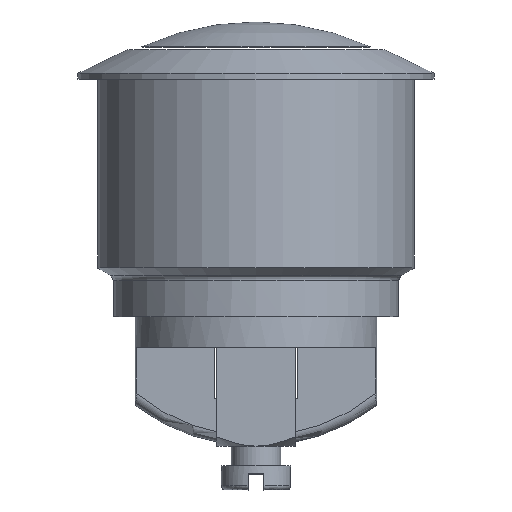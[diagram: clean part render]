
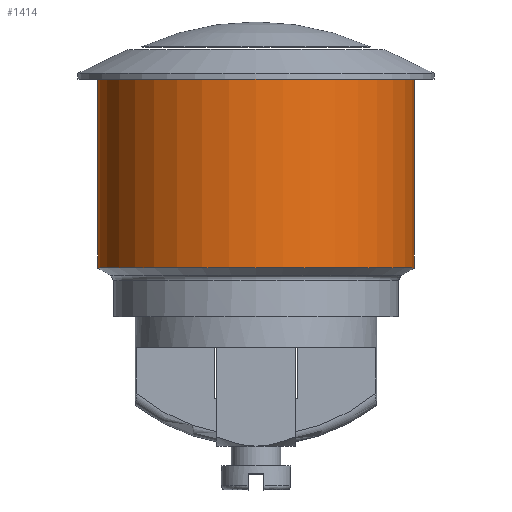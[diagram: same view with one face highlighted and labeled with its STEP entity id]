
A CAD part, top view. The second image highlights one B-rep face of the part: STEP entity #1414.
In plain terms, the highlighted cylindrical face has radius 8 mm (diameter 16 mm), a partial arc.
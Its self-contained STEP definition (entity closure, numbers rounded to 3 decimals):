
#1128=CARTESIAN_POINT('',(0.,4.012,0.));
#1129=DIRECTION('',(0.,1.,0.));
#1130=DIRECTION('',(-1.,0.,0.));
#1131=AXIS2_PLACEMENT_3D('',#1128,#1129,#1130);
#1180=DIRECTION('',(0.,-1.,0.));
#1181=VECTOR('',#1180,9.538);
#1182=CARTESIAN_POINT('',(-8.,13.55,0.));
#1183=LINE('',#1182,#1181);
#1184=DIRECTION('',(0.,-1.,0.));
#1185=VECTOR('',#1184,9.538);
#1186=CARTESIAN_POINT('',(8.,13.55,0.));
#1187=LINE('',#1186,#1185);
#1188=CARTESIAN_POINT('',(0.,13.55,0.));
#1189=DIRECTION('',(0.,1.,0.));
#1190=DIRECTION('',(-1.,0.,0.));
#1191=AXIS2_PLACEMENT_3D('',#1188,#1189,#1190);
#1255=CARTESIAN_POINT('',(-8.,4.012,0.));
#1256=VERTEX_POINT('',#1255);
#1257=CARTESIAN_POINT('',(8.,4.012,0.));
#1258=VERTEX_POINT('',#1257);
#1263=CARTESIAN_POINT('',(8.,13.55,0.));
#1264=VERTEX_POINT('',#1263);
#1265=CARTESIAN_POINT('',(-8.,13.55,0.));
#1266=VERTEX_POINT('',#1265);
#1402=CARTESIAN_POINT('',(0.,15.725,0.));
#1403=DIRECTION('',(0.,-1.,0.));
#1404=DIRECTION('',(-1.,0.,0.));
#1405=AXIS2_PLACEMENT_3D('',#1402,#1403,#1404);
#1406=CYLINDRICAL_SURFACE('',#1405,8.);
#1407=ORIENTED_EDGE('',*,*,#1392,.T.);
#1408=ORIENTED_EDGE('',*,*,#1335,.F.);
#1409=ORIENTED_EDGE('',*,*,#1396,.F.);
#1411=ORIENTED_EDGE('',*,*,#1410,.T.);
#1412=EDGE_LOOP('',(#1407,#1408,#1409,#1411));
#1413=FACE_OUTER_BOUND('',#1412,.F.);
#1414=ADVANCED_FACE('',(#1413),#1406,.T.);
#1132=CIRCLE('',#1131,8.);
#1192=CIRCLE('',#1191,8.);
#1335=EDGE_CURVE('',#1256,#1258,#1132,.T.);
#1392=EDGE_CURVE('',#1264,#1258,#1187,.T.);
#1396=EDGE_CURVE('',#1266,#1256,#1183,.T.);
#1410=EDGE_CURVE('',#1266,#1264,#1192,.T.);
